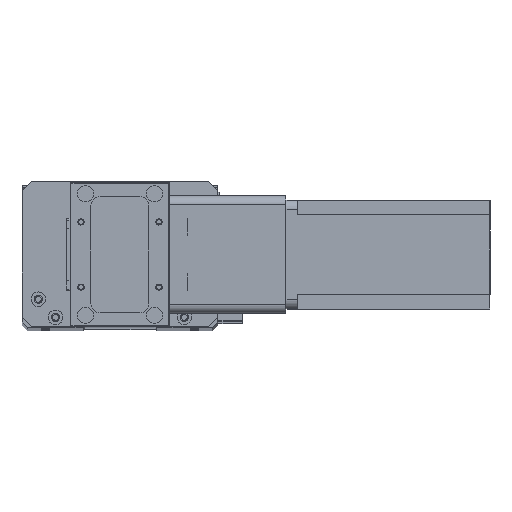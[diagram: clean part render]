
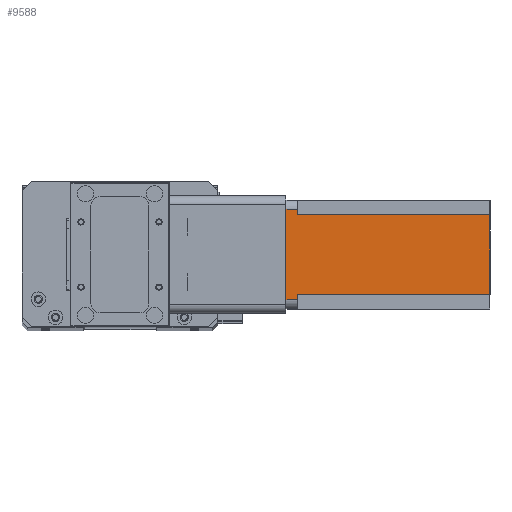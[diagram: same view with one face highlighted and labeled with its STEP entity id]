
A CAD part, top view. The second image highlights one B-rep face of the part: STEP entity #9588.
In plain terms, the highlighted planar face has unit normal (0, 0, 1) as drawn and (0, 1, 0) by its records, which use the part's own axes.
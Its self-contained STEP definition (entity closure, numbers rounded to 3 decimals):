
#265 = EDGE_CURVE ( 'NONE', #22547, #9918, #25857, .T. ) ;
#313 = VERTEX_POINT ( 'NONE', #20643 ) ;
#393 = ORIENTED_EDGE ( 'NONE', *, *, #11950, .F. ) ;
#477 = CARTESIAN_POINT ( 'NONE',  ( 8., 60., -6.5 ) ) ;
#800 = DIRECTION ( 'NONE',  ( -1., 0., 0. ) ) ;
#1062 = CARTESIAN_POINT ( 'NONE',  ( 52., 60., -112.5 ) ) ;
#1389 = VECTOR ( 'NONE', #4429, 1000. ) ;
#1631 = DIRECTION ( 'NONE',  ( 0., 0., -1. ) ) ;
#2164 = VERTEX_POINT ( 'NONE', #2994 ) ;
#2939 = ORIENTED_EDGE ( 'NONE', *, *, #21576, .T. ) ;
#2994 = CARTESIAN_POINT ( 'NONE',  ( 5., 60., -6.5 ) ) ;
#3370 = CARTESIAN_POINT ( 'NONE',  ( 0., 60., 0. ) ) ;
#3501 = VERTEX_POINT ( 'NONE', #14697 ) ;
#4105 = VECTOR ( 'NONE', #20127, 1000. ) ;
#4429 = DIRECTION ( 'NONE',  ( 0., 0., 1. ) ) ;
#4492 = ORIENTED_EDGE ( 'NONE', *, *, #265, .T. ) ;
#4589 = VECTOR ( 'NONE', #18546, 1000. ) ;
#5022 = DIRECTION ( 'NONE',  ( 0., 1., 0. ) ) ;
#5024 = CARTESIAN_POINT ( 'NONE',  ( 52., 60., -112.5 ) ) ;
#6898 = VECTOR ( 'NONE', #1631, 1000. ) ;
#7102 = DIRECTION ( 'NONE',  ( 0., 0., 1. ) ) ;
#7438 = CARTESIAN_POINT ( 'NONE',  ( 8., 60., -6.5 ) ) ;
#8365 = CARTESIAN_POINT ( 'NONE',  ( 55., 60., 0. ) ) ;
#8793 = EDGE_CURVE ( 'NONE', #3501, #17361, #15099, .T. ) ;
#8983 = DIRECTION ( 'NONE',  ( 1., 0., 0. ) ) ;
#9530 = VECTOR ( 'NONE', #8983, 1000. ) ;
#9588 = ADVANCED_FACE ( 'NONE', ( #12734 ), #25894, .T. ) ;
#9673 = LINE ( 'NONE', #3370, #4105 ) ;
#9819 = VECTOR ( 'NONE', #800, 1000. ) ;
#9918 = VERTEX_POINT ( 'NONE', #22683 ) ;
#10792 = LINE ( 'NONE', #22773, #4589 ) ;
#10972 = CARTESIAN_POINT ( 'NONE',  ( 52., 60., -6.5 ) ) ;
#11808 = EDGE_CURVE ( 'NONE', #22547, #3501, #19156, .T. ) ;
#11950 = EDGE_CURVE ( 'NONE', #13890, #313, #9673, .T. ) ;
#12031 = CARTESIAN_POINT ( 'NONE',  ( 8., 60., -112.5 ) ) ;
#12734 = FACE_OUTER_BOUND ( 'NONE', #27153, .T. ) ;
#12742 = LINE ( 'NONE', #7438, #17664 ) ;
#13136 = LINE ( 'NONE', #12031, #6898 ) ;
#13890 = VERTEX_POINT ( 'NONE', #8365 ) ;
#14307 = CARTESIAN_POINT ( 'NONE',  ( 55., 60., -6.5 ) ) ;
#14697 = CARTESIAN_POINT ( 'NONE',  ( 52., 60., -6.5 ) ) ;
#14883 = CARTESIAN_POINT ( 'NONE',  ( 5., 60., -112.5 ) ) ;
#15099 = LINE ( 'NONE', #10972, #9530 ) ;
#15982 = ORIENTED_EDGE ( 'NONE', *, *, #11808, .F. ) ;
#16600 = AXIS2_PLACEMENT_3D ( 'NONE', #17549, #5022, #19671 ) ;
#17361 = VERTEX_POINT ( 'NONE', #14307 ) ;
#17549 = CARTESIAN_POINT ( 'NONE',  ( 0., 60., -112.5 ) ) ;
#17664 = VECTOR ( 'NONE', #24236, 1000. ) ;
#17705 = ORIENTED_EDGE ( 'NONE', *, *, #8793, .F. ) ;
#18514 = VERTEX_POINT ( 'NONE', #477 ) ;
#18546 = DIRECTION ( 'NONE',  ( 0., 0., -1. ) ) ;
#18721 = ORIENTED_EDGE ( 'NONE', *, *, #21950, .T. ) ;
#19156 = LINE ( 'NONE', #5024, #23426 ) ;
#19671 = DIRECTION ( 'NONE',  ( 0., 0., 1. ) ) ;
#19971 = EDGE_CURVE ( 'NONE', #18514, #9918, #13136, .T. ) ;
#20127 = DIRECTION ( 'NONE',  ( -1., 0., 0. ) ) ;
#20206 = EDGE_CURVE ( 'NONE', #2164, #313, #24327, .T. ) ;
#20643 = CARTESIAN_POINT ( 'NONE',  ( 5., 60., 0. ) ) ;
#21576 = EDGE_CURVE ( 'NONE', #13890, #17361, #10792, .T. ) ;
#21950 = EDGE_CURVE ( 'NONE', #18514, #2164, #12742, .T. ) ;
#21997 = ORIENTED_EDGE ( 'NONE', *, *, #20206, .T. ) ;
#22547 = VERTEX_POINT ( 'NONE', #1062 ) ;
#22683 = CARTESIAN_POINT ( 'NONE',  ( 8., 60., -112.5 ) ) ;
#22773 = CARTESIAN_POINT ( 'NONE',  ( 55., 60., -112.5 ) ) ;
#23426 = VECTOR ( 'NONE', #7102, 1000. ) ;
#24236 = DIRECTION ( 'NONE',  ( -1., 0., 0. ) ) ;
#24327 = LINE ( 'NONE', #14883, #1389 ) ;
#25138 = ORIENTED_EDGE ( 'NONE', *, *, #19971, .F. ) ;
#25857 = LINE ( 'NONE', #26440, #9819 ) ;
#25894 = PLANE ( 'NONE',  #16600 ) ;
#26440 = CARTESIAN_POINT ( 'NONE',  ( 0., 60., -112.5 ) ) ;
#27153 = EDGE_LOOP ( 'NONE', ( #393, #2939, #17705, #15982, #4492, #25138, #18721, #21997 ) ) ;
